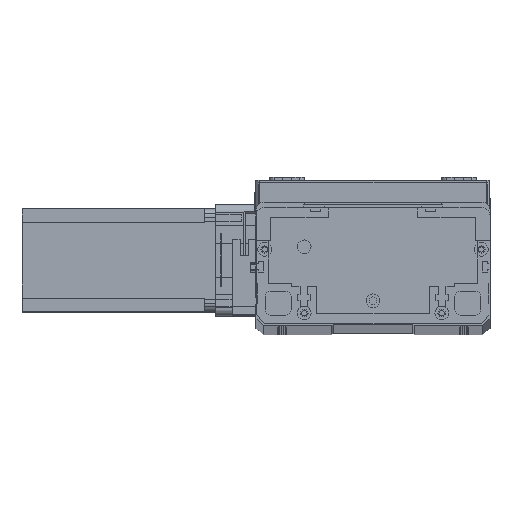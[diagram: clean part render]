
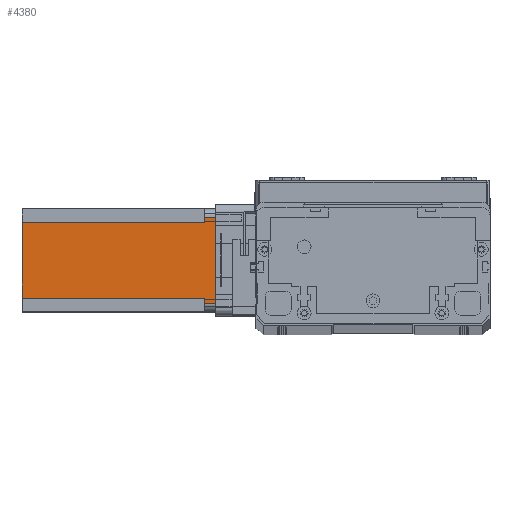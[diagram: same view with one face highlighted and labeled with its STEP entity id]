
A CAD part, top view. The second image highlights one B-rep face of the part: STEP entity #4380.
In plain terms, the highlighted planar face has unit normal (0, 0, 1) as drawn and (0, -1, 0) by its records, which use the part's own axes.
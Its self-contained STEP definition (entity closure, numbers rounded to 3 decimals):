
#308 = LINE ( 'NONE', #12872, #11246 ) ;
#1214 = ORIENTED_EDGE ( 'NONE', *, *, #26870, .F. ) ;
#2472 = VERTEX_POINT ( 'NONE', #19630 ) ;
#3358 = CARTESIAN_POINT ( 'NONE',  ( 8., 0., -6.5 ) ) ;
#3361 = VECTOR ( 'NONE', #27732, 1000. ) ;
#3515 = VERTEX_POINT ( 'NONE', #17081 ) ;
#4332 = VECTOR ( 'NONE', #24346, 1000. ) ;
#4363 = LINE ( 'NONE', #13701, #14603 ) ;
#4380 = ADVANCED_FACE ( 'NONE', ( #9496 ), #8273, .T. ) ;
#5103 = CARTESIAN_POINT ( 'NONE',  ( 55., 0., 0. ) ) ;
#5276 = ORIENTED_EDGE ( 'NONE', *, *, #27730, .T. ) ;
#5325 = DIRECTION ( 'NONE',  ( 1., 0., 0. ) ) ;
#5962 = CARTESIAN_POINT ( 'NONE',  ( 8., 0., -112.5 ) ) ;
#6263 = CARTESIAN_POINT ( 'NONE',  ( 5., 0., -6.5 ) ) ;
#6458 = DIRECTION ( 'NONE',  ( 0., -1., 0. ) ) ;
#6528 = DIRECTION ( 'NONE',  ( 0., 0., -1. ) ) ;
#7193 = VECTOR ( 'NONE', #19724, 1000. ) ;
#7641 = CARTESIAN_POINT ( 'NONE',  ( 0., 0., -112.5 ) ) ;
#7648 = ORIENTED_EDGE ( 'NONE', *, *, #24245, .T. ) ;
#7670 = AXIS2_PLACEMENT_3D ( 'NONE', #7641, #6458, #6528 ) ;
#7814 = CARTESIAN_POINT ( 'NONE',  ( 5., 0., 0. ) ) ;
#8120 = CARTESIAN_POINT ( 'NONE',  ( 8., 0., -6.5 ) ) ;
#8273 = PLANE ( 'NONE',  #7670 ) ;
#8887 = CARTESIAN_POINT ( 'NONE',  ( 8., 0., -112.5 ) ) ;
#9496 = FACE_OUTER_BOUND ( 'NONE', #10772, .T. ) ;
#9650 = CARTESIAN_POINT ( 'NONE',  ( 0., 0., -112.5 ) ) ;
#10363 = ORIENTED_EDGE ( 'NONE', *, *, #25962, .F. ) ;
#10772 = EDGE_LOOP ( 'NONE', ( #24847, #7648, #23188, #22150, #10363, #1214, #5276, #15856 ) ) ;
#11137 = EDGE_CURVE ( 'NONE', #17007, #21863, #23364, .T. ) ;
#11246 = VECTOR ( 'NONE', #17236, 1000. ) ;
#12872 = CARTESIAN_POINT ( 'NONE',  ( 52., 0., -6.5 ) ) ;
#13196 = CARTESIAN_POINT ( 'NONE',  ( 0., 0., 0. ) ) ;
#13701 = CARTESIAN_POINT ( 'NONE',  ( 52., 0., -112.5 ) ) ;
#14603 = VECTOR ( 'NONE', #15887, 1000. ) ;
#15856 = ORIENTED_EDGE ( 'NONE', *, *, #24528, .F. ) ;
#15887 = DIRECTION ( 'NONE',  ( 0., 0., -1. ) ) ;
#17007 = VERTEX_POINT ( 'NONE', #7814 ) ;
#17081 = CARTESIAN_POINT ( 'NONE',  ( 55., 0., -6.5 ) ) ;
#17236 = DIRECTION ( 'NONE',  ( 1., 0., 0. ) ) ;
#17708 = VECTOR ( 'NONE', #25955, 1000. ) ;
#17842 = VERTEX_POINT ( 'NONE', #6263 ) ;
#18348 = VERTEX_POINT ( 'NONE', #5962 ) ;
#18615 = DIRECTION ( 'NONE',  ( -1., 0., 0. ) ) ;
#19630 = CARTESIAN_POINT ( 'NONE',  ( 52., 0., -6.5 ) ) ;
#19724 = DIRECTION ( 'NONE',  ( 0., 0., 1. ) ) ;
#19946 = VECTOR ( 'NONE', #18615, 1000. ) ;
#20483 = CARTESIAN_POINT ( 'NONE',  ( 52., 0., -112.5 ) ) ;
#20700 = LINE ( 'NONE', #25641, #3361 ) ;
#21417 = LINE ( 'NONE', #9650, #26284 ) ;
#21863 = VERTEX_POINT ( 'NONE', #5103 ) ;
#22150 = ORIENTED_EDGE ( 'NONE', *, *, #25122, .T. ) ;
#23188 = ORIENTED_EDGE ( 'NONE', *, *, #11137, .F. ) ;
#23364 = LINE ( 'NONE', #13196, #17708 ) ;
#23550 = EDGE_CURVE ( 'NONE', #2472, #3515, #308, .T. ) ;
#24245 = EDGE_CURVE ( 'NONE', #3515, #21863, #20700, .T. ) ;
#24346 = DIRECTION ( 'NONE',  ( 0., 0., -1. ) ) ;
#24528 = EDGE_CURVE ( 'NONE', #2472, #25205, #4363, .T. ) ;
#24847 = ORIENTED_EDGE ( 'NONE', *, *, #23550, .T. ) ;
#24882 = LINE ( 'NONE', #3358, #19946 ) ;
#25055 = LINE ( 'NONE', #8887, #7193 ) ;
#25122 = EDGE_CURVE ( 'NONE', #17007, #17842, #26533, .T. ) ;
#25205 = VERTEX_POINT ( 'NONE', #20483 ) ;
#25641 = CARTESIAN_POINT ( 'NONE',  ( 55., 0., -112.5 ) ) ;
#25955 = DIRECTION ( 'NONE',  ( 1., 0., 0. ) ) ;
#25962 = EDGE_CURVE ( 'NONE', #26120, #17842, #24882, .T. ) ;
#26120 = VERTEX_POINT ( 'NONE', #8120 ) ;
#26284 = VECTOR ( 'NONE', #5325, 1000. ) ;
#26427 = CARTESIAN_POINT ( 'NONE',  ( 5., 0., -112.5 ) ) ;
#26533 = LINE ( 'NONE', #26427, #4332 ) ;
#26870 = EDGE_CURVE ( 'NONE', #18348, #26120, #25055, .T. ) ;
#27730 = EDGE_CURVE ( 'NONE', #18348, #25205, #21417, .T. ) ;
#27732 = DIRECTION ( 'NONE',  ( 0., 0., 1. ) ) ;
